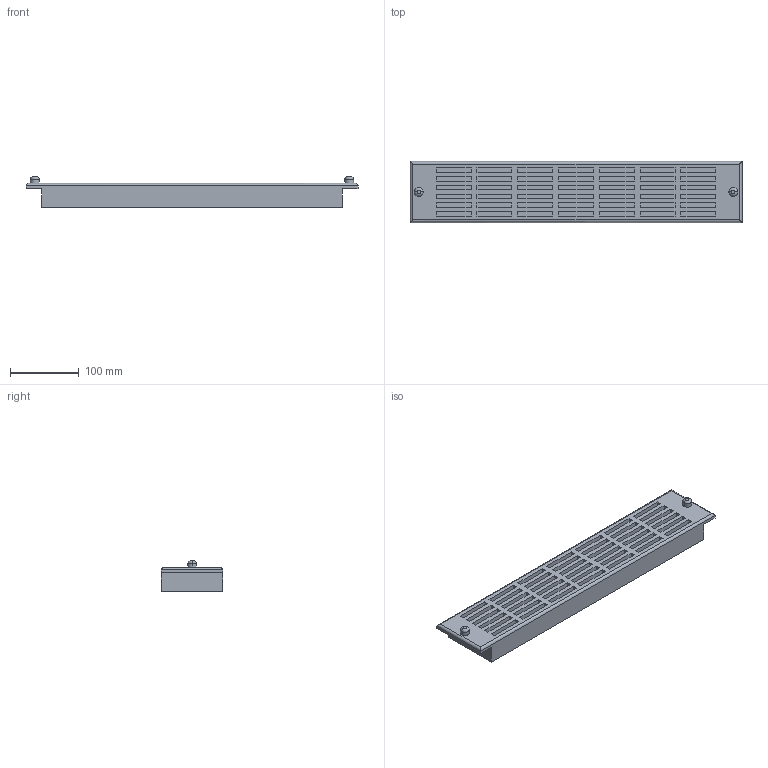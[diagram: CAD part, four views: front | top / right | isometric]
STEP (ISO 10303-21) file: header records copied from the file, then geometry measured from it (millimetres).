
FILE_DESCRIPTION (( 'STEP AP203' ), '1' );
FILE_NAME ('35g19.STEP', '2013-07-23T13:19:14', ( 'User' ), ( 'Pentair Inc' ), 'SwSTEP 2.0', 'SolidWorks 2010', '' );
FILE_SCHEMA (( 'CONFIG_CONTROL_DESIGN' ));
Length unit declared in the file: inch
Products named in the file (1): 35g19
Bounding box: 482.6 x 88.9 x 44.32 mm (x, y, z)
Volume: 1272357.8 mm3; surface area: 160884 mm2
Topology: 1 solids, 1 shells, 234 faces, 556 edges, 368 vertices
Faces by surface type: plane 222, cylinder 8, torus 4
Entity records: 6691 total; most frequent: CARTESIAN_POINT 1171, ORIENTED_EDGE 1112, DIRECTION 1038, EDGE_CURVE 556, LINE 536, VECTOR 536, VERTEX_POINT 368, EDGE_LOOP 278
